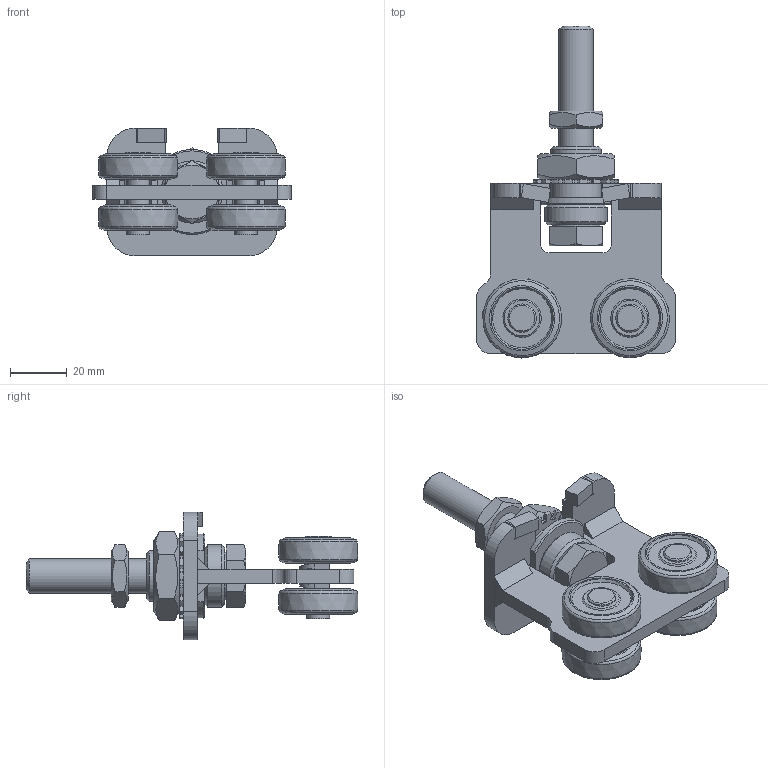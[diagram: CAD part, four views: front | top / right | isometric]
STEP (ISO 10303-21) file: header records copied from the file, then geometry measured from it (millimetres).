
FILE_DESCRIPTION(/* description */ ('Doppelrolle Horizontal Nr.1'),/* implementation_level */ '2;1');
FILE_NAME(/* name */ 'Q:\sge-ma\Produktmanagement-STB\STB\Workspace\TraceParts\Doppelrolle horizontrale drehbar\010336442.stp',/* time_stamp */ '2018-02-21T15:19:36+01:00',/* author */ ('avschreier'),/* organization */ (''),/* preprocessor_version */ 'ST-DEVELOPER v16.1',/* originating_system */ 'Autodesk Inventor 2016',/* authorisation */ '');
FILE_SCHEMA (('CONFIG_CONTROL_DESIGN'));
Length unit declared in the file: millimetre
Products named in the file (13): 010336442_Schweißnähte; 000302046; 000302040; 000303235; 000304011; 336290010; 000302025; 000302022; DIN_EN_ISO_4017-M12x70_en; DIN_6798-A_19_en; DIN_EN_ISO_4035-M12_en; DIN_EN_ISO_4035-M18_en; 010336442
Assembly tree (19 placements, depth 2):
  010336442
    010336442_Schweißnähte
    000302046
    000302040
    000303235  x4
    000304011  x2
    336290010  x4
    000302025
    000302022
    DIN_EN_ISO_4017-M12x70_en
    DIN_6798-A_19_en
    DIN_EN_ISO_4035-M12_en
    DIN_EN_ISO_4035-M18_en
Bounding box: 70 x 117 x 45 mm (x, y, z)
Volume: 67100.6 mm3; surface area: 37059.2 mm2
Topology: 22 solids, 22 shells, 516 faces, 1271 edges, 820 vertices
Faces by surface type: plane 290, cylinder 129, cone 59, bspline 28, torus 10
Full cylindrical faces by diameter (mm): 8 x6, 10 x2, 10.106 x1, 11.053 x1, 12 x2, 12.5 x1, 15.294 x1, 17.2 x1, 18 x1, 19 x1, 22 x1
Entity records: 11073 total; most frequent: CARTESIAN_POINT 2606, DIRECTION 1778, ORIENTED_EDGE 1630, EDGE_CURVE 815, AXIS2_PLACEMENT_3D 650, VERTEX_POINT 554, LINE 478, VECTOR 478
